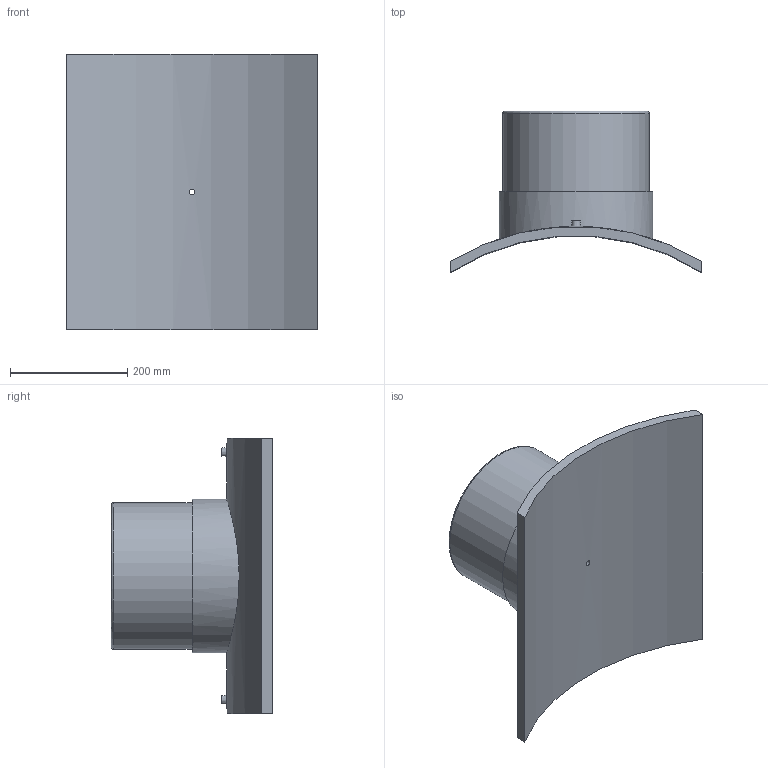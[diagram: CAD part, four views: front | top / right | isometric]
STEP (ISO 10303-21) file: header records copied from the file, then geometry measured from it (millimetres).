
FILE_DESCRIPTION(/* description */ ('PLASSON BRANCH SADDLE 800x250'),/* implementation_level */ '2;1');
FILE_NAME(/* name */ 'C:\Dropbox\KIMPROJECTS-Inventor 2019\99-16-3568-Processing\ElectroFusion Fittings\495803\stp\495803800250T.stp',/* time_stamp */ '2024-04-04T11:57:30+02:00',/* author */ ('KIM'),/* organization */ (''),/* preprocessor_version */ 'ST-DEVELOPER v17.2',/* originating_system */ 'Autodesk Inventor 2019',/* authorisation */ '');
FILE_SCHEMA (('AUTOMOTIVE_DESIGN { 1 0 10303 214 3 1 1 }'));
Length unit declared in the file: millimetre
Products named in the file (1): 495803800250T
Bounding box: 430 x 275.69 x 470 mm (x, y, z)
Volume: 7381225.2 mm3; surface area: 758641.7 mm2
Topology: 1 solids, 1 shells, 29 faces, 60 edges, 43 vertices
Faces by surface type: plane 13, cylinder 12, torus 2, cone 2
Full cylindrical faces by diameter (mm): 4 x2, 9.6 x1, 10 x2, 16 x1, 200 x1, 250 x1, 262.5 x1
Entity records: 1086 total; most frequent: CARTESIAN_POINT 400, DIRECTION 139, ORIENTED_EDGE 120, EDGE_CURVE 60, AXIS2_PLACEMENT_3D 60, VERTEX_POINT 43, EDGE_LOOP 41, CIRCLE 30
